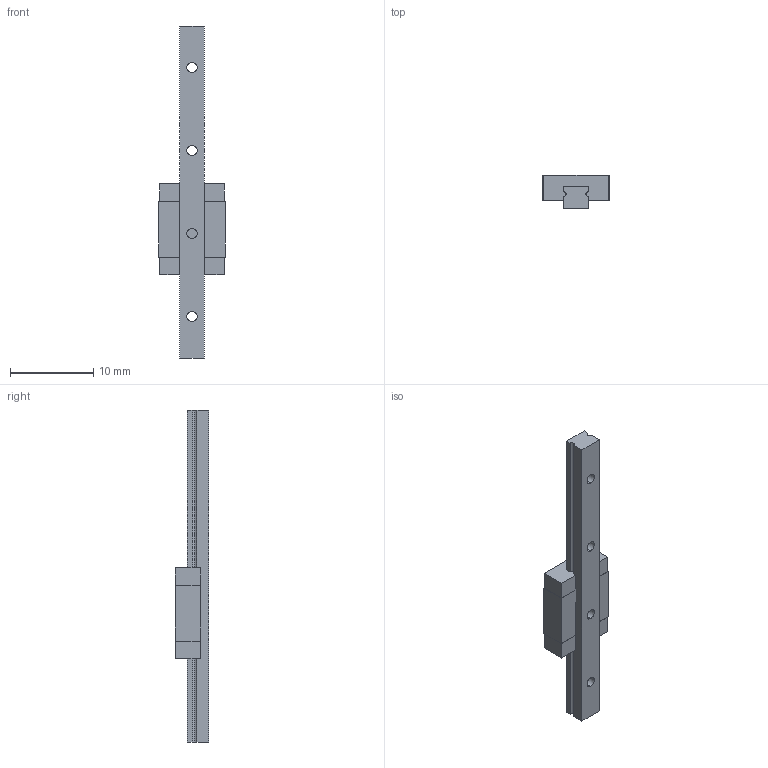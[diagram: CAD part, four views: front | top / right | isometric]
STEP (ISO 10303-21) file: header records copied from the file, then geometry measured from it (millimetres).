
FILE_DESCRIPTION (( 'STEP AP203' ), '1' );
FILE_NAME ('MCM 3.STEP', '2018-06-19T00:13:59', ( '' ), ( '' ), 'SwSTEP 2.0', 'SolidWorks 2016', '' );
FILE_SCHEMA (( 'CONFIG_CONTROL_DESIGN' ));
Length unit declared in the file: millimetre
Products named in the file (3): MCM 3; MCM BASE 3; MCM TABLE 3 - 40
Assembly tree (2 placements, depth 2):
  MCM 3
    MCM TABLE 3 - 40
    MCM BASE 3
Bounding box: 8 x 4 x 40 mm (x, y, z)
Volume: 496.3 mm3; surface area: 926.7 mm2
Topology: 4 solids, 4 shells, 72 faces, 188 edges, 124 vertices
Faces by surface type: plane 44, cylinder 24, cone 4
Entity records: 2537 total; most frequent: DIRECTION 394, CARTESIAN_POINT 389, ORIENTED_EDGE 376, EDGE_CURVE 188, LINE 136, VECTOR 136, AXIS2_PLACEMENT_3D 129, VERTEX_POINT 124
